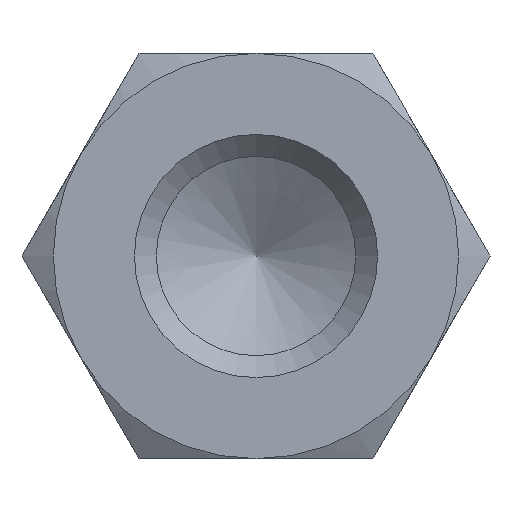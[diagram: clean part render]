
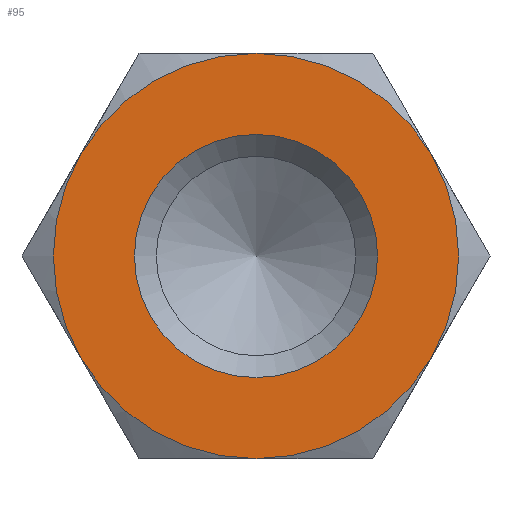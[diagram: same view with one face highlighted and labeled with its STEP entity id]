
A CAD part, left-side view. The second image highlights one B-rep face of the part: STEP entity #95.
In plain terms, the highlighted planar face has unit normal (-1, 0, 0).
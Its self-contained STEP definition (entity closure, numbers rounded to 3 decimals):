
#95 = ADVANCED_FACE( '', ( #147, #148 ), #149, .F. );
#147 = FACE_OUTER_BOUND( '', #206, .T. );
#148 = FACE_BOUND( '', #207, .T. );
#149 = PLANE( '', #208 );
#206 = EDGE_LOOP( '', ( #356, #357, #358, #359, #360, #361 ) );
#207 = EDGE_LOOP( '', ( #362 ) );
#208 = AXIS2_PLACEMENT_3D( '', #363, #364, #365 );
#356 = ORIENTED_EDGE( '', *, *, #440, .F. );
#357 = ORIENTED_EDGE( '', *, *, #425, .F. );
#358 = ORIENTED_EDGE( '', *, *, #441, .F. );
#359 = ORIENTED_EDGE( '', *, *, #437, .F. );
#360 = ORIENTED_EDGE( '', *, *, #442, .F. );
#361 = ORIENTED_EDGE( '', *, *, #443, .F. );
#362 = ORIENTED_EDGE( '', *, *, #439, .T. );
#363 = CARTESIAN_POINT( '', ( -25., 0., 0. ) );
#364 = DIRECTION( '', ( 1., 0., 0. ) );
#365 = DIRECTION( '', ( 0., 0., -1. ) );
#425 = EDGE_CURVE( '', #495, #493, #497, .T. );
#437 = EDGE_CURVE( '', #447, #506, #513, .T. );
#439 = EDGE_CURVE( '', #516, #516, #517, .T. );
#440 = EDGE_CURVE( '', #493, #486, #518, .T. );
#441 = EDGE_CURVE( '', #506, #495, #519, .T. );
#442 = EDGE_CURVE( '', #481, #447, #520, .T. );
#443 = EDGE_CURVE( '', #486, #481, #521, .T. );
#447 = VERTEX_POINT( '', #525 );
#481 = VERTEX_POINT( '', #601 );
#486 = VERTEX_POINT( '', #617 );
#493 = VERTEX_POINT( '', #642 );
#495 = VERTEX_POINT( '', #647 );
#497 = CIRCLE( '', #654, 5. );
#506 = VERTEX_POINT( '', #680 );
#513 = CIRCLE( '', #717, 5. );
#516 = VERTEX_POINT( '', #720 );
#517 = CIRCLE( '', #721, 3. );
#518 = CIRCLE( '', #722, 5. );
#519 = CIRCLE( '', #723, 5. );
#520 = CIRCLE( '', #724, 5. );
#521 = CIRCLE( '', #725, 5. );
#525 = CARTESIAN_POINT( '', ( -25., -4.33, 2.5 ) );
#601 = CARTESIAN_POINT( '', ( -25., 0., 5. ) );
#617 = CARTESIAN_POINT( '', ( -25., 4.33, 2.5 ) );
#642 = CARTESIAN_POINT( '', ( -25., 4.33, -2.5 ) );
#647 = CARTESIAN_POINT( '', ( -25., 0., -5. ) );
#654 = AXIS2_PLACEMENT_3D( '', #760, #761, #762 );
#680 = CARTESIAN_POINT( '', ( -25., -4.33, -2.5 ) );
#717 = AXIS2_PLACEMENT_3D( '', #765, #766, #767 );
#720 = CARTESIAN_POINT( '', ( -25., 0., -3. ) );
#721 = AXIS2_PLACEMENT_3D( '', #771, #772, #773 );
#722 = AXIS2_PLACEMENT_3D( '', #774, #775, #776 );
#723 = AXIS2_PLACEMENT_3D( '', #777, #778, #779 );
#724 = AXIS2_PLACEMENT_3D( '', #780, #781, #782 );
#725 = AXIS2_PLACEMENT_3D( '', #783, #784, #785 );
#760 = CARTESIAN_POINT( '', ( -25., 0., 0. ) );
#761 = DIRECTION( '', ( 1., 0., 0. ) );
#762 = DIRECTION( '', ( 0., 0., -1. ) );
#765 = CARTESIAN_POINT( '', ( -25., 0., 0. ) );
#766 = DIRECTION( '', ( 1., 0., 0. ) );
#767 = DIRECTION( '', ( 0., 0., -1. ) );
#771 = CARTESIAN_POINT( '', ( -25., 0., 0. ) );
#772 = DIRECTION( '', ( 1., 0., 0. ) );
#773 = DIRECTION( '', ( 0., 0., -1. ) );
#774 = CARTESIAN_POINT( '', ( -25., 0., 0. ) );
#775 = DIRECTION( '', ( 1., 0., 0. ) );
#776 = DIRECTION( '', ( 0., 0., -1. ) );
#777 = CARTESIAN_POINT( '', ( -25., 0., 0. ) );
#778 = DIRECTION( '', ( 1., 0., 0. ) );
#779 = DIRECTION( '', ( 0., 0., -1. ) );
#780 = CARTESIAN_POINT( '', ( -25., 0., 0. ) );
#781 = DIRECTION( '', ( 1., 0., 0. ) );
#782 = DIRECTION( '', ( 0., 0., -1. ) );
#783 = CARTESIAN_POINT( '', ( -25., 0., 0. ) );
#784 = DIRECTION( '', ( 1., 0., 0. ) );
#785 = DIRECTION( '', ( 0., 0., -1. ) );
